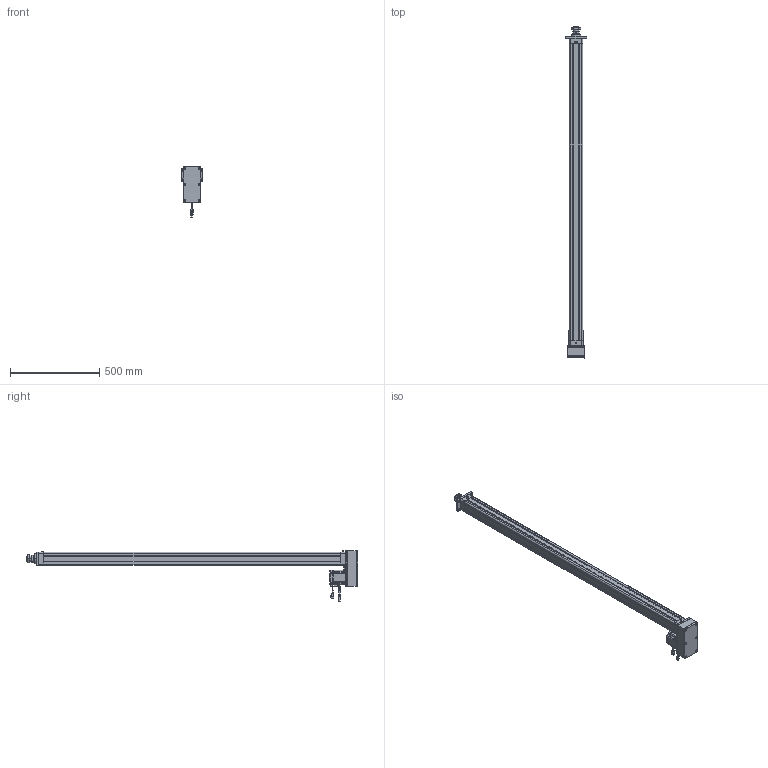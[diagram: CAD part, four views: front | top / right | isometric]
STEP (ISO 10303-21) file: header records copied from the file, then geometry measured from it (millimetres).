
FILE_DESCRIPTION((''),'2;1');
FILE_NAME('ASM0001_ASM','2020-04-15T',('ASUS20200'),(''),'CREO PARAMETRIC BY PTC INC, 2014190','CREO PARAMETRIC BY PTC INC, 2014190','');
FILE_SCHEMA(('CONFIG_CONTROL_DESIGN'));
Length unit declared in the file: millimetre
Products named in the file (31): HE63-D-P-001-X1; HE63-D-P-002-X1; HE63-D-P-003-X1; LGLM-M8-22; SLM-01; YZ-M6X1; JDB405030; HE63-P-010-X1-80N; _MHMF082L1A2; _CABLE_MOTOR_BOTTOM_05; _CABLE_MOTOR_TOP_05; _MOTOR_CONNECTOR_2; _CABLE_BRAKE_BOTTOM_05; _CABLE_BRAKE_TOP_05; _MHMF_CONNECTOR_9_PIN_A6; MHMF082L1A2M2_1_ASM; JX6X6X25; HE63-P-012-X1; HE63-P-013-X1; M6X60; JM-M8; LM-M8-15; LM-M8X1-25; HE63-D-P-005-X1; HE63-D-P-004-X1; HE63-D-P-008-X1; TD-6; M6X25; F-SE63FA; M8X16; ASM0001_ASM
Assembly tree (51 placements, depth 3):
  ASM0001_ASM
    HE63-D-P-001-X1
    HE63-D-P-002-X1
    HE63-D-P-003-X1
    LGLM-M8-22  x8
    SLM-01
    YZ-M6X1
    JDB405030
    HE63-P-010-X1-80N
    MHMF082L1A2M2_1_ASM
      _MHMF082L1A2
      _CABLE_MOTOR_BOTTOM_05
      _CABLE_MOTOR_TOP_05
      _MOTOR_CONNECTOR_2
      _CABLE_BRAKE_BOTTOM_05
      _CABLE_BRAKE_TOP_05
      _MHMF_CONNECTOR_9_PIN_A6
    JX6X6X25
    HE63-P-012-X1
    HE63-P-013-X1
    M6X60  x6
    JM-M8
    LM-M8-15
    LM-M8X1-25
    HE63-D-P-005-X1
    HE63-D-P-004-X1
    HE63-D-P-008-X1
    TD-6  x4
    M6X25  x4
    F-SE63FA
    M8X16  x4
Bounding box: 118 x 1857 x 284.15 mm (x, y, z)
Volume: 4999433.9 mm3; surface area: 1548398.6 mm2
Topology: 50 solids, 80 shells, 2791 faces, 6723 edges, 4184 vertices
Faces by surface type: plane 1199, cylinder 788, cone 609, torus 150, sphere 42, bspline 3
Entity records: 68787 total; most frequent: CARTESIAN_POINT 13044, DIRECTION 12235, ORIENTED_EDGE 10914, EDGE_CURVE 5511, AXIS2_PLACEMENT_3D 4572, VERTEX_POINT 3453, VECTOR 3091, LINE 3091
